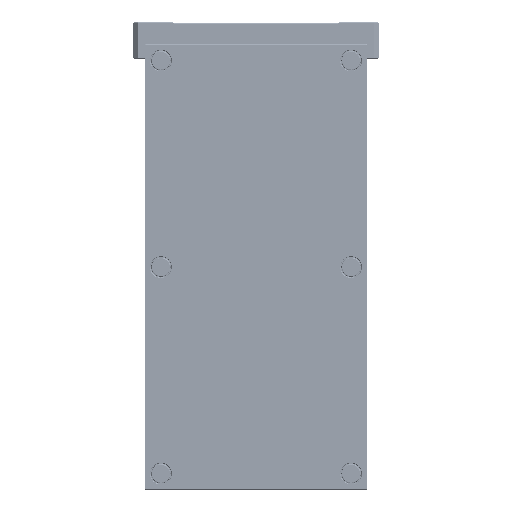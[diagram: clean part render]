
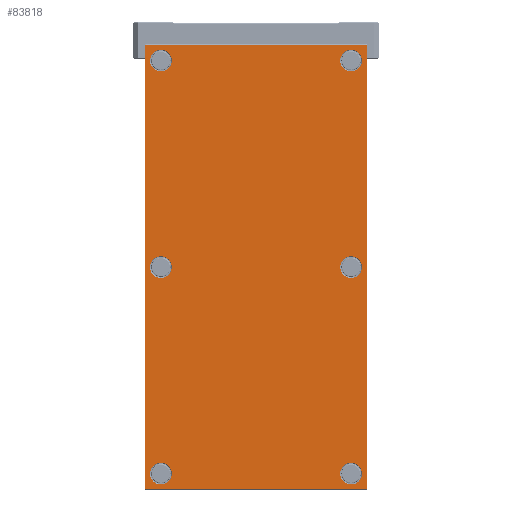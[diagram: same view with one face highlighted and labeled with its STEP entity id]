
A CAD part, front view. The second image highlights one B-rep face of the part: STEP entity #83818.
In plain terms, the highlighted planar face has unit normal (0, -1, 0).
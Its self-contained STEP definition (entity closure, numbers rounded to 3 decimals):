
#82377=CARTESIAN_POINT('',(149.,-9.,-74.));
#82378=DIRECTION('',(0.,-1.,0.));
#82379=DIRECTION('',(0.,0.,-1.));
#82380=AXIS2_PLACEMENT_3D('',#82377,#82378,#82379);
#82382=DIRECTION('',(1.,0.,0.));
#82383=VECTOR('',#82382,298.);
#82384=CARTESIAN_POINT('',(-149.,-9.,
-74.5));
#82385=LINE('',#82384,#82383);
#82386=CARTESIAN_POINT('',(-149.,-9.,-74.));
#82387=DIRECTION('',(0.,-1.,0.));
#82388=DIRECTION('',(-1.,0.,0.));
#82389=AXIS2_PLACEMENT_3D('',#82386,#82387,#82388);
#82391=DIRECTION('',(0.,0.,-1.));
#82392=VECTOR('',#82391,148.);
#82393=CARTESIAN_POINT('',(-149.5,-9.,74.));
#82394=LINE('',#82393,#82392);
#82395=CARTESIAN_POINT('',(-149.,-9.,74.));
#82396=DIRECTION('',(0.,-1.,0.));
#82397=DIRECTION('',(0.,0.,1.));
#82398=AXIS2_PLACEMENT_3D('',#82395,#82396,#82397);
#82400=DIRECTION('',(-1.,0.,0.));
#82401=VECTOR('',#82400,298.);
#82402=CARTESIAN_POINT('',(149.,-9.,
74.5));
#82403=LINE('',#82402,#82401);
#82404=CARTESIAN_POINT('',(149.,-9.,74.));
#82405=DIRECTION('',(0.,-1.,0.));
#82406=DIRECTION('',(1.,0.,0.));
#82407=AXIS2_PLACEMENT_3D('',#82404,#82405,#82406);
#82409=DIRECTION('',(0.,0.,1.));
#82410=VECTOR('',#82409,148.);
#82411=CARTESIAN_POINT('',(149.5,-9.,-74.));
#82412=LINE('',#82411,#82410);
#82413=CARTESIAN_POINT('',(-139.,-9.,-64.));
#82414=DIRECTION('',(0.,1.,0.));
#82415=DIRECTION('',(1.,0.,0.));
#82416=AXIS2_PLACEMENT_3D('',#82413,#82414,#82415);
#82418=CARTESIAN_POINT('',(-139.,-9.,-64.));
#82419=DIRECTION('',(0.,1.,0.));
#82420=DIRECTION('',(-1.,0.,0.));
#82421=AXIS2_PLACEMENT_3D('',#82418,#82419,#82420);
#82423=CARTESIAN_POINT('',(0.,-9.,-64.));
#82424=DIRECTION('',(0.,1.,0.));
#82425=DIRECTION('',(1.,0.,0.));
#82426=AXIS2_PLACEMENT_3D('',#82423,#82424,#82425);
#82428=CARTESIAN_POINT('',(0.,-9.,-64.));
#82429=DIRECTION('',(0.,1.,0.));
#82430=DIRECTION('',(-1.,0.,0.));
#82431=AXIS2_PLACEMENT_3D('',#82428,#82429,#82430);
#82433=CARTESIAN_POINT('',(139.,-9.,-64.));
#82434=DIRECTION('',(0.,1.,0.));
#82435=DIRECTION('',(1.,0.,0.));
#82436=AXIS2_PLACEMENT_3D('',#82433,#82434,#82435);
#82438=CARTESIAN_POINT('',(139.,-9.,-64.));
#82439=DIRECTION('',(0.,1.,0.));
#82440=DIRECTION('',(-1.,0.,0.));
#82441=AXIS2_PLACEMENT_3D('',#82438,#82439,#82440);
#82443=CARTESIAN_POINT('',(139.,-9.,64.));
#82444=DIRECTION('',(0.,1.,0.));
#82445=DIRECTION('',(1.,0.,0.));
#82446=AXIS2_PLACEMENT_3D('',#82443,#82444,#82445);
#82448=CARTESIAN_POINT('',(139.,-9.,64.));
#82449=DIRECTION('',(0.,1.,0.));
#82450=DIRECTION('',(-1.,0.,0.));
#82451=AXIS2_PLACEMENT_3D('',#82448,#82449,#82450);
#82453=CARTESIAN_POINT('',(0.,-9.,64.));
#82454=DIRECTION('',(0.,1.,0.));
#82455=DIRECTION('',(1.,0.,0.));
#82456=AXIS2_PLACEMENT_3D('',#82453,#82454,#82455);
#82458=CARTESIAN_POINT('',(0.,-9.,64.));
#82459=DIRECTION('',(0.,1.,0.));
#82460=DIRECTION('',(-1.,0.,0.));
#82461=AXIS2_PLACEMENT_3D('',#82458,#82459,#82460);
#82463=CARTESIAN_POINT('',(-139.,-9.,64.));
#82464=DIRECTION('',(0.,1.,0.));
#82465=DIRECTION('',(1.,0.,0.));
#82466=AXIS2_PLACEMENT_3D('',#82463,#82464,#82465);
#82468=CARTESIAN_POINT('',(-139.,-9.,64.));
#82469=DIRECTION('',(0.,1.,0.));
#82470=DIRECTION('',(-1.,0.,0.));
#82471=AXIS2_PLACEMENT_3D('',#82468,#82469,#82470);
#83547=CARTESIAN_POINT('',(149.,-9.,-74.5));
#83548=CARTESIAN_POINT('',(149.5,-9.,-74.));
#83549=VERTEX_POINT('',#83547);
#83550=VERTEX_POINT('',#83548);
#83555=CARTESIAN_POINT('',(149.5,-9.,
74.));
#83556=VERTEX_POINT('',#83555);
#83559=CARTESIAN_POINT('',(149.,-9.,74.5));
#83560=VERTEX_POINT('',#83559);
#83563=CARTESIAN_POINT('',(-149.,-9.,
74.5));
#83564=VERTEX_POINT('',#83563);
#83567=CARTESIAN_POINT('',(-149.5,-9.,74.));
#83568=VERTEX_POINT('',#83567);
#83571=CARTESIAN_POINT('',(-149.5,-9.,
-74.));
#83572=VERTEX_POINT('',#83571);
#83575=CARTESIAN_POINT('',(-149.,-9.,-74.5));
#83576=VERTEX_POINT('',#83575);
#83603=CARTESIAN_POINT('',(-131.7,-9.,-64.));
#83604=CARTESIAN_POINT('',(-146.3,-9.,-64.));
#83605=VERTEX_POINT('',#83603);
#83606=VERTEX_POINT('',#83604);
#83619=CARTESIAN_POINT('',(7.3,-9.,-64.));
#83620=CARTESIAN_POINT('',(-7.3,-9.,-64.));
#83621=VERTEX_POINT('',#83619);
#83622=VERTEX_POINT('',#83620);
#83643=CARTESIAN_POINT('',(146.3,-9.,-64.));
#83644=CARTESIAN_POINT('',(131.7,-9.,-64.));
#83645=VERTEX_POINT('',#83643);
#83646=VERTEX_POINT('',#83644);
#83659=CARTESIAN_POINT('',(146.3,-9.,64.));
#83660=CARTESIAN_POINT('',(131.7,-9.,64.));
#83661=VERTEX_POINT('',#83659);
#83662=VERTEX_POINT('',#83660);
#83667=CARTESIAN_POINT('',(7.3,-9.,64.));
#83668=CARTESIAN_POINT('',(-7.3,-9.,64.));
#83669=VERTEX_POINT('',#83667);
#83670=VERTEX_POINT('',#83668);
#83691=CARTESIAN_POINT('',(-131.7,-9.,64.));
#83692=CARTESIAN_POINT('',(-146.3,-9.,64.));
#83693=VERTEX_POINT('',#83691);
#83694=VERTEX_POINT('',#83692);
#83759=CARTESIAN_POINT('',(0.,-9.,0.));
#83760=DIRECTION('',(0.,1.,0.));
#83761=DIRECTION('',(1.,0.,0.));
#83762=AXIS2_PLACEMENT_3D('',#83759,#83760,#83761);
#83763=PLANE('',#83762);
#83765=ORIENTED_EDGE('',*,*,#83764,.F.);
#83767=ORIENTED_EDGE('',*,*,#83766,.F.);
#83769=ORIENTED_EDGE('',*,*,#83768,.F.);
#83771=ORIENTED_EDGE('',*,*,#83770,.F.);
#83773=ORIENTED_EDGE('',*,*,#83772,.F.);
#83775=ORIENTED_EDGE('',*,*,#83774,.F.);
#83777=ORIENTED_EDGE('',*,*,#83776,.F.);
#83779=ORIENTED_EDGE('',*,*,#83778,.F.);
#83780=EDGE_LOOP('',(#83765,#83767,#83769,#83771,#83773,#83775,#83777,#83779));
#83781=FACE_OUTER_BOUND('',#83780,.F.);
#83783=ORIENTED_EDGE('',*,*,#83782,.F.);
#83785=ORIENTED_EDGE('',*,*,#83784,.F.);
#83786=EDGE_LOOP('',(#83783,#83785));
#83787=FACE_BOUND('',#83786,.F.);
#83789=ORIENTED_EDGE('',*,*,#83788,.F.);
#83791=ORIENTED_EDGE('',*,*,#83790,.F.);
#83792=EDGE_LOOP('',(#83789,#83791));
#83793=FACE_BOUND('',#83792,.F.);
#83795=ORIENTED_EDGE('',*,*,#83794,.F.);
#83797=ORIENTED_EDGE('',*,*,#83796,.F.);
#83798=EDGE_LOOP('',(#83795,#83797));
#83799=FACE_BOUND('',#83798,.F.);
#83801=ORIENTED_EDGE('',*,*,#83800,.F.);
#83803=ORIENTED_EDGE('',*,*,#83802,.F.);
#83804=EDGE_LOOP('',(#83801,#83803));
#83805=FACE_BOUND('',#83804,.F.);
#83807=ORIENTED_EDGE('',*,*,#83806,.F.);
#83809=ORIENTED_EDGE('',*,*,#83808,.F.);
#83810=EDGE_LOOP('',(#83807,#83809));
#83811=FACE_BOUND('',#83810,.F.);
#83813=ORIENTED_EDGE('',*,*,#83812,.F.);
#83815=ORIENTED_EDGE('',*,*,#83814,.F.);
#83816=EDGE_LOOP('',(#83813,#83815));
#83817=FACE_BOUND('',#83816,.F.);
#83818=ADVANCED_FACE('',(#83781,#83787,#83793,#83799,#83805,#83811,#83817),
#83763,.F.);
#82381=CIRCLE('',#82380,0.5);
#82390=CIRCLE('',#82389,0.5);
#82399=CIRCLE('',#82398,0.5);
#82408=CIRCLE('',#82407,0.5);
#82417=CIRCLE('',#82416,7.3);
#82422=CIRCLE('',#82421,7.3);
#82427=CIRCLE('',#82426,7.3);
#82432=CIRCLE('',#82431,7.3);
#82437=CIRCLE('',#82436,7.3);
#82442=CIRCLE('',#82441,7.3);
#82447=CIRCLE('',#82446,7.3);
#82452=CIRCLE('',#82451,7.3);
#82457=CIRCLE('',#82456,7.3);
#82462=CIRCLE('',#82461,7.3);
#82467=CIRCLE('',#82466,7.3);
#82472=CIRCLE('',#82471,7.3);
#83764=EDGE_CURVE('',#83549,#83550,#82381,.T.);
#83766=EDGE_CURVE('',#83576,#83549,#82385,.T.);
#83768=EDGE_CURVE('',#83572,#83576,#82390,.T.);
#83770=EDGE_CURVE('',#83568,#83572,#82394,.T.);
#83772=EDGE_CURVE('',#83564,#83568,#82399,.T.);
#83774=EDGE_CURVE('',#83560,#83564,#82403,.T.);
#83776=EDGE_CURVE('',#83556,#83560,#82408,.T.);
#83778=EDGE_CURVE('',#83550,#83556,#82412,.T.);
#83782=EDGE_CURVE('',#83605,#83606,#82417,.T.);
#83784=EDGE_CURVE('',#83606,#83605,#82422,.T.);
#83788=EDGE_CURVE('',#83621,#83622,#82427,.T.);
#83790=EDGE_CURVE('',#83622,#83621,#82432,.T.);
#83794=EDGE_CURVE('',#83645,#83646,#82437,.T.);
#83796=EDGE_CURVE('',#83646,#83645,#82442,.T.);
#83800=EDGE_CURVE('',#83661,#83662,#82447,.T.);
#83802=EDGE_CURVE('',#83662,#83661,#82452,.T.);
#83806=EDGE_CURVE('',#83669,#83670,#82457,.T.);
#83808=EDGE_CURVE('',#83670,#83669,#82462,.T.);
#83812=EDGE_CURVE('',#83693,#83694,#82467,.T.);
#83814=EDGE_CURVE('',#83694,#83693,#82472,.T.);
